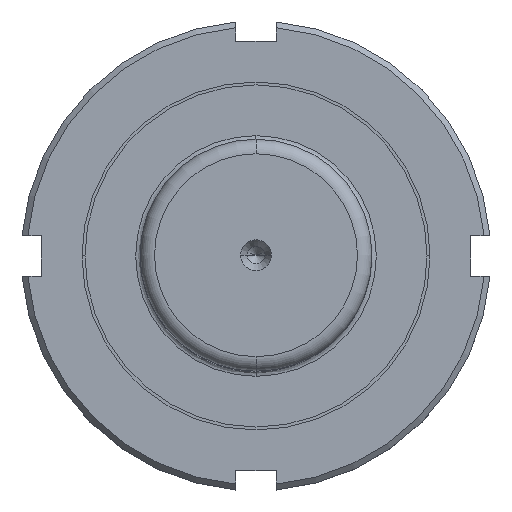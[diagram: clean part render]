
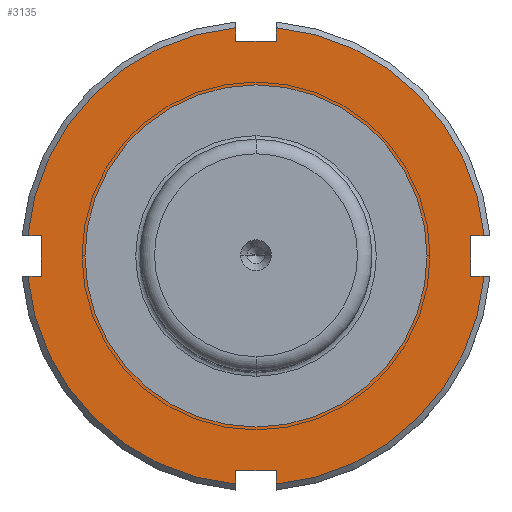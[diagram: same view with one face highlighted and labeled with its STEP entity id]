
A CAD part, top view. The second image highlights one B-rep face of the part: STEP entity #3135.
In plain terms, the highlighted planar face has unit normal (0, 0, 1).
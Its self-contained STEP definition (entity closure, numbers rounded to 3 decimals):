
#2227=CARTESIAN_POINT('',(0.0,29.5,38.0));
#2228=VERTEX_POINT('',#2227);
#2244=CARTESIAN_POINT('',(0.,-29.5,38.0));
#2245=VERTEX_POINT('',#2244);
#2252=CARTESIAN_POINT('',(0.0,0.0,38.0));
#2253=DIRECTION('',(0.0,0.0,-1.0));
#2254=DIRECTION('',(0.0,1.0,0.0));
#2255=AXIS2_PLACEMENT_3D('',#2252,#2253,#2254);
#2256=CIRCLE('',#2255,29.5);
#2257=EDGE_CURVE('',#2228,#2245,#2256,.T.);
#2292=CARTESIAN_POINT('',(-37.0,3.5,38.));
#2293=VERTEX_POINT('',#2292);
#2300=CARTESIAN_POINT('',(-39.345,3.5,38.0));
#2301=VERTEX_POINT('',#2300);
#2302=CARTESIAN_POINT('',(-39.345,3.5,38.0));
#2303=DIRECTION('',(1.0,0.0,0.0));
#2304=VECTOR('',#2303,2.345);
#2305=LINE('',#2302,#2304);
#2306=EDGE_CURVE('',#2301,#2293,#2305,.T.);
#2362=CARTESIAN_POINT('',(-39.345,-3.5,38.0));
#2363=VERTEX_POINT('',#2362);
#2377=CARTESIAN_POINT('',(-37.0,-3.5,38.));
#2378=VERTEX_POINT('',#2377);
#2379=CARTESIAN_POINT('',(-37.0,-3.5,38.));
#2380=DIRECTION('',(-1.0,0.0,0.0));
#2381=VECTOR('',#2380,2.345);
#2382=LINE('',#2379,#2381);
#2383=EDGE_CURVE('',#2378,#2363,#2382,.T.);
#2414=CARTESIAN_POINT('',(-37.0,3.5,38.));
#2415=DIRECTION('',(0.0,-1.0,0.0));
#2416=VECTOR('',#2415,7.0);
#2417=LINE('',#2414,#2416);
#2418=EDGE_CURVE('',#2293,#2378,#2417,.T.);
#2454=CARTESIAN_POINT('',(-3.5,-37.0,38.0));
#2455=VERTEX_POINT('',#2454);
#2462=CARTESIAN_POINT('',(-3.5,-39.345,38.0));
#2463=VERTEX_POINT('',#2462);
#2464=CARTESIAN_POINT('',(-3.5,-39.345,38.0));
#2465=DIRECTION('',(0.0,1.0,0.0));
#2466=VECTOR('',#2465,2.345);
#2467=LINE('',#2464,#2466);
#2468=EDGE_CURVE('',#2463,#2455,#2467,.T.);
#2524=CARTESIAN_POINT('',(3.5,-39.345,38.0));
#2525=VERTEX_POINT('',#2524);
#2539=CARTESIAN_POINT('',(3.5,-37.0,38.0));
#2540=VERTEX_POINT('',#2539);
#2541=CARTESIAN_POINT('',(3.5,-37.0,38.0));
#2542=DIRECTION('',(0.0,-1.0,0.0));
#2543=VECTOR('',#2542,2.345);
#2544=LINE('',#2541,#2543);
#2545=EDGE_CURVE('',#2540,#2525,#2544,.T.);
#2576=CARTESIAN_POINT('',(-3.5,-37.0,38.0));
#2577=DIRECTION('',(1.0,0.0,0.0));
#2578=VECTOR('',#2577,7.0);
#2579=LINE('',#2576,#2578);
#2580=EDGE_CURVE('',#2455,#2540,#2579,.T.);
#2616=CARTESIAN_POINT('',(37.0,-3.5,38.));
#2617=VERTEX_POINT('',#2616);
#2624=CARTESIAN_POINT('',(39.345,-3.5,38.0));
#2625=VERTEX_POINT('',#2624);
#2626=CARTESIAN_POINT('',(39.345,-3.5,38.0));
#2627=DIRECTION('',(-1.0,0.0,0.0));
#2628=VECTOR('',#2627,2.345);
#2629=LINE('',#2626,#2628);
#2630=EDGE_CURVE('',#2625,#2617,#2629,.T.);
#2686=CARTESIAN_POINT('',(39.345,3.5,38.0));
#2687=VERTEX_POINT('',#2686);
#2701=CARTESIAN_POINT('',(37.0,3.5,38.));
#2702=VERTEX_POINT('',#2701);
#2703=CARTESIAN_POINT('',(37.0,3.5,38.));
#2704=DIRECTION('',(1.0,0.0,0.0));
#2705=VECTOR('',#2704,2.345);
#2706=LINE('',#2703,#2705);
#2707=EDGE_CURVE('',#2702,#2687,#2706,.T.);
#2738=CARTESIAN_POINT('',(37.0,-3.5,38.));
#2739=DIRECTION('',(0.0,1.0,0.0));
#2740=VECTOR('',#2739,7.0);
#2741=LINE('',#2738,#2740);
#2742=EDGE_CURVE('',#2617,#2702,#2741,.T.);
#2778=CARTESIAN_POINT('',(3.5,37.0,38.0));
#2779=VERTEX_POINT('',#2778);
#2786=CARTESIAN_POINT('',(3.5,39.345,38.0));
#2787=VERTEX_POINT('',#2786);
#2788=CARTESIAN_POINT('',(3.5,39.345,38.0));
#2789=DIRECTION('',(0.0,-1.0,0.0));
#2790=VECTOR('',#2789,2.345);
#2791=LINE('',#2788,#2790);
#2792=EDGE_CURVE('',#2787,#2779,#2791,.T.);
#2848=CARTESIAN_POINT('',(-3.5,39.345,38.0));
#2849=VERTEX_POINT('',#2848);
#2863=CARTESIAN_POINT('',(-3.5,37.0,38.0));
#2864=VERTEX_POINT('',#2863);
#2865=CARTESIAN_POINT('',(-3.5,37.0,38.0));
#2866=DIRECTION('',(0.0,1.0,0.0));
#2867=VECTOR('',#2866,2.345);
#2868=LINE('',#2865,#2867);
#2869=EDGE_CURVE('',#2864,#2849,#2868,.T.);
#2900=CARTESIAN_POINT('',(3.5,37.0,38.0));
#2901=DIRECTION('',(-1.0,0.0,0.0));
#2902=VECTOR('',#2901,7.0);
#2903=LINE('',#2900,#2902);
#2904=EDGE_CURVE('',#2779,#2864,#2903,.T.);
#3078=CARTESIAN_POINT('',(0.0,34.5,38.0));
#3079=DIRECTION('',(0.0,0.0,1.0));
#3080=DIRECTION('',(1.0,0.0,0.0));
#3081=AXIS2_PLACEMENT_3D('',#3078,#3079,#3080);
#3082=PLANE('',#3081);
#3083=ORIENTED_EDGE('',*,*,#2306,.T.);
#3084=ORIENTED_EDGE('',*,*,#2418,.T.);
#3085=ORIENTED_EDGE('',*,*,#2383,.T.);
#3086=CARTESIAN_POINT('',(0.0,0.0,38.0));
#3087=DIRECTION('',(0.0,0.0,-1.0));
#3088=DIRECTION('',(0.0,1.0,0.0));
#3089=AXIS2_PLACEMENT_3D('',#3086,#3087,#3088);
#3090=CIRCLE('',#3089,39.5);
#3091=EDGE_CURVE('',#2463,#2363,#3090,.T.);
#3092=ORIENTED_EDGE('',*,*,#3091,.F.);
#3093=ORIENTED_EDGE('',*,*,#2468,.T.);
#3094=ORIENTED_EDGE('',*,*,#2580,.T.);
#3095=ORIENTED_EDGE('',*,*,#2545,.T.);
#3096=CARTESIAN_POINT('',(0.0,0.0,38.0));
#3097=DIRECTION('',(0.0,0.0,-1.0));
#3098=DIRECTION('',(0.0,1.0,0.0));
#3099=AXIS2_PLACEMENT_3D('',#3096,#3097,#3098);
#3100=CIRCLE('',#3099,39.5);
#3101=EDGE_CURVE('',#2625,#2525,#3100,.T.);
#3102=ORIENTED_EDGE('',*,*,#3101,.F.);
#3103=ORIENTED_EDGE('',*,*,#2630,.T.);
#3104=ORIENTED_EDGE('',*,*,#2742,.T.);
#3105=ORIENTED_EDGE('',*,*,#2707,.T.);
#3106=CARTESIAN_POINT('',(0.0,0.0,38.0));
#3107=DIRECTION('',(0.0,0.0,-1.0));
#3108=DIRECTION('',(0.0,1.0,0.0));
#3109=AXIS2_PLACEMENT_3D('',#3106,#3107,#3108);
#3110=CIRCLE('',#3109,39.5);
#3111=EDGE_CURVE('',#2787,#2687,#3110,.T.);
#3112=ORIENTED_EDGE('',*,*,#3111,.F.);
#3113=ORIENTED_EDGE('',*,*,#2792,.T.);
#3114=ORIENTED_EDGE('',*,*,#2904,.T.);
#3115=ORIENTED_EDGE('',*,*,#2869,.T.);
#3116=CARTESIAN_POINT('',(0.0,0.0,38.0));
#3117=DIRECTION('',(0.0,0.0,-1.0));
#3118=DIRECTION('',(0.0,1.0,0.0));
#3119=AXIS2_PLACEMENT_3D('',#3116,#3117,#3118);
#3120=CIRCLE('',#3119,39.5);
#3121=EDGE_CURVE('',#2301,#2849,#3120,.T.);
#3122=ORIENTED_EDGE('',*,*,#3121,.F.);
#3123=EDGE_LOOP('',(#3083,#3084,#3085,#3092,#3093,#3094,#3095,#3102,#3103,#3104,#3105,#3112,#3113,#3114,#3115,#3122));
#3124=FACE_OUTER_BOUND('',#3123,.T.);
#3125=ORIENTED_EDGE('',*,*,#2257,.T.);
#3126=CARTESIAN_POINT('',(0.0,0.0,38.0));
#3127=DIRECTION('',(0.0,0.0,-1.0));
#3128=DIRECTION('',(0.0,1.0,0.0));
#3129=AXIS2_PLACEMENT_3D('',#3126,#3127,#3128);
#3130=CIRCLE('',#3129,29.5);
#3131=EDGE_CURVE('',#2245,#2228,#3130,.T.);
#3132=ORIENTED_EDGE('',*,*,#3131,.T.);
#3133=EDGE_LOOP('',(#3125,#3132));
#3134=FACE_BOUND('',#3133,.T.);
#3135=ADVANCED_FACE('',(#3124,#3134),#3082,.T.);
